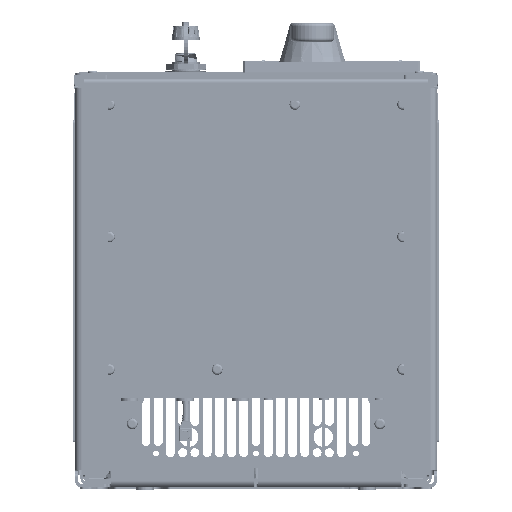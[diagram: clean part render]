
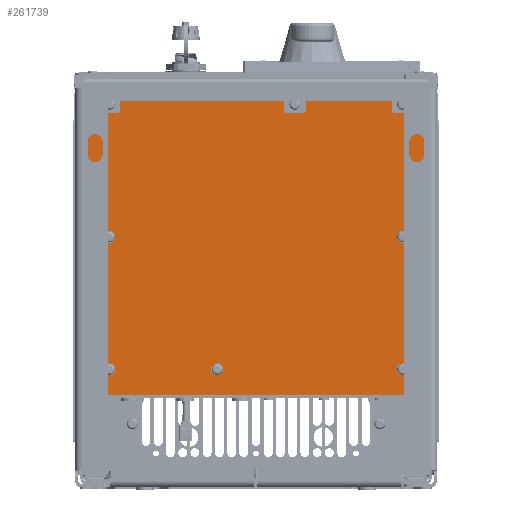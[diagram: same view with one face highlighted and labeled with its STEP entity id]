
A CAD part, front view. The second image highlights one B-rep face of the part: STEP entity #261739.
In plain terms, the highlighted planar face has unit normal (0, -1, 0) as drawn and (0, 0, 1) by its records, which use the part's own axes.
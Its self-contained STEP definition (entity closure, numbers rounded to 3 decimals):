
#261132=CARTESIAN_POINT('',(0.,132.,1.9));
#261133=DIRECTION('',(0.,0.,1.));
#261134=DIRECTION('',(0.,-1.,0.));
#261135=AXIS2_PLACEMENT_3D('',#261132,#261133,#261134);
#261140=CARTESIAN_POINT('',(0.,132.,1.9));
#261141=DIRECTION('',(0.,0.,1.));
#261142=DIRECTION('',(0.,1.,0.));
#261143=AXIS2_PLACEMENT_3D('',#261140,#261141,#261142);
#261148=CARTESIAN_POINT('',(119.3,132.,1.9));
#261149=DIRECTION('',(0.,0.,1.));
#261150=DIRECTION('',(0.,-1.,0.));
#261151=AXIS2_PLACEMENT_3D('',#261148,#261149,#261150);
#261156=CARTESIAN_POINT('',(119.3,132.,1.9));
#261157=DIRECTION('',(0.,0.,1.));
#261158=DIRECTION('',(0.,1.,0.));
#261159=AXIS2_PLACEMENT_3D('',#261156,#261157,#261158);
#261164=CARTESIAN_POINT('',(-119.3,132.,1.9));
#261165=DIRECTION('',(0.,0.,1.));
#261166=DIRECTION('',(0.,-1.,0.));
#261167=AXIS2_PLACEMENT_3D('',#261164,#261165,#261166);
#261172=CARTESIAN_POINT('',(-119.3,132.,1.9));
#261173=DIRECTION('',(0.,0.,1.));
#261174=DIRECTION('',(0.,1.,0.));
#261175=AXIS2_PLACEMENT_3D('',#261172,#261173,#261174);
#261180=CARTESIAN_POINT('',(0.,-132.,1.9));
#261181=DIRECTION('',(0.,0.,1.));
#261182=DIRECTION('',(0.,-1.,0.));
#261183=AXIS2_PLACEMENT_3D('',#261180,#261181,#261182);
#261188=CARTESIAN_POINT('',(0.,-132.,1.9));
#261189=DIRECTION('',(0.,0.,1.));
#261190=DIRECTION('',(0.,1.,0.));
#261191=AXIS2_PLACEMENT_3D('',#261188,#261189,#261190);
#261196=CARTESIAN_POINT('',(119.3,-35.,1.9));
#261197=DIRECTION('',(0.,0.,1.));
#261198=DIRECTION('',(0.,-1.,0.));
#261199=AXIS2_PLACEMENT_3D('',#261196,#261197,#261198);
#261204=CARTESIAN_POINT('',(119.3,-35.,1.9));
#261205=DIRECTION('',(0.,0.,1.));
#261206=DIRECTION('',(0.,1.,0.));
#261207=AXIS2_PLACEMENT_3D('',#261204,#261205,#261206);
#261212=CARTESIAN_POINT('',(119.3,-132.,1.9));
#261213=DIRECTION('',(0.,0.,1.));
#261214=DIRECTION('',(0.,-1.,0.));
#261215=AXIS2_PLACEMENT_3D('',#261212,#261213,#261214);
#261220=CARTESIAN_POINT('',(119.3,-132.,1.9));
#261221=DIRECTION('',(0.,0.,1.));
#261222=DIRECTION('',(0.,1.,0.));
#261223=AXIS2_PLACEMENT_3D('',#261220,#261221,#261222);
#261228=CARTESIAN_POINT('',(-119.3,35.,1.9));
#261229=DIRECTION('',(0.,0.,1.));
#261230=DIRECTION('',(0.,-1.,0.));
#261231=AXIS2_PLACEMENT_3D('',#261228,#261229,#261230);
#261236=CARTESIAN_POINT('',(-119.3,35.,1.9));
#261237=DIRECTION('',(0.,0.,1.));
#261238=DIRECTION('',(0.,1.,0.));
#261239=AXIS2_PLACEMENT_3D('',#261236,#261237,#261238);
#261244=CARTESIAN_POINT('',(-119.3,-132.,1.9));
#261245=DIRECTION('',(0.,0.,1.));
#261246=DIRECTION('',(0.,-1.,0.));
#261247=AXIS2_PLACEMENT_3D('',#261244,#261245,#261246);
#261252=CARTESIAN_POINT('',(-119.3,-132.,1.9));
#261253=DIRECTION('',(0.,0.,1.));
#261254=DIRECTION('',(0.,1.,0.));
#261255=AXIS2_PLACEMENT_3D('',#261252,#261253,#261254);
#261260=CARTESIAN_POINT('',(-137.,-146.,1.9));
#261261=DIRECTION('',(0.,0.,1.));
#261262=DIRECTION('',(-1.,0.,0.));
#261263=AXIS2_PLACEMENT_3D('',#261260,#261261,#261262);
#261268=DIRECTION('',(0.,-1.,0.));
#261269=VECTOR('',#261268,292.);
#261270=CARTESIAN_POINT('',(-142.,146.,1.9));
#261271=LINE('',#261270,#261269);
#261275=CARTESIAN_POINT('',(-137.,146.,1.9));
#261276=DIRECTION('',(0.,0.,1.));
#261277=DIRECTION('',(0.,1.,0.));
#261278=AXIS2_PLACEMENT_3D('',#261275,#261276,#261277);
#261283=DIRECTION('',(-1.,0.,0.));
#261284=VECTOR('',#261283,274.);
#261285=CARTESIAN_POINT('',(137.,151.,1.9));
#261286=LINE('',#261285,#261284);
#261290=CARTESIAN_POINT('',(137.,146.,1.9));
#261291=DIRECTION('',(0.,0.,1.));
#261292=DIRECTION('',(1.,0.,0.));
#261293=AXIS2_PLACEMENT_3D('',#261290,#261291,#261292);
#261298=DIRECTION('',(0.,1.,0.));
#261299=VECTOR('',#261298,292.);
#261300=CARTESIAN_POINT('',(142.,-146.,1.9));
#261301=LINE('',#261300,#261299);
#261305=CARTESIAN_POINT('',(137.,-146.,1.9));
#261306=DIRECTION('',(0.,0.,1.));
#261307=DIRECTION('',(0.,-1.,0.));
#261308=AXIS2_PLACEMENT_3D('',#261305,#261306,#261307);
#261313=DIRECTION('',(1.,0.,0.));
#261314=VECTOR('',#261313,274.);
#261315=CARTESIAN_POINT('',(-137.,-151.,1.9));
#261316=LINE('',#261315,#261314);
#261490=CARTESIAN_POINT('',(-119.3,-135.25,1.9));
#261491=CARTESIAN_POINT('',(-119.3,-128.75,1.9));
#261492=VERTEX_POINT('',#261490);
#261493=VERTEX_POINT('',#261491);
#261494=CARTESIAN_POINT('',(-119.3,31.75,1.9));
#261495=CARTESIAN_POINT('',(-119.3,38.25,1.9));
#261496=VERTEX_POINT('',#261494);
#261497=VERTEX_POINT('',#261495);
#261498=CARTESIAN_POINT('',(119.3,-135.25,1.9));
#261499=CARTESIAN_POINT('',(119.3,-128.75,1.9));
#261500=VERTEX_POINT('',#261498);
#261501=VERTEX_POINT('',#261499);
#261502=CARTESIAN_POINT('',(119.3,-38.25,1.9));
#261503=CARTESIAN_POINT('',(119.3,-31.75,1.9));
#261504=VERTEX_POINT('',#261502);
#261505=VERTEX_POINT('',#261503);
#261522=CARTESIAN_POINT('',(0.,-135.25,1.9));
#261523=CARTESIAN_POINT('',(0.,-128.75,1.9));
#261524=VERTEX_POINT('',#261522);
#261525=VERTEX_POINT('',#261523);
#261526=CARTESIAN_POINT('',(-119.3,128.75,1.9));
#261527=CARTESIAN_POINT('',(-119.3,135.25,1.9));
#261528=VERTEX_POINT('',#261526);
#261529=VERTEX_POINT('',#261527);
#261530=CARTESIAN_POINT('',(119.3,128.75,1.9));
#261531=CARTESIAN_POINT('',(119.3,135.25,1.9));
#261532=VERTEX_POINT('',#261530);
#261533=VERTEX_POINT('',#261531);
#261534=CARTESIAN_POINT('',(0.,128.75,1.9));
#261535=CARTESIAN_POINT('',(0.,135.25,1.9));
#261536=VERTEX_POINT('',#261534);
#261537=VERTEX_POINT('',#261535);
#261542=CARTESIAN_POINT('',(-142.,-146.,1.9));
#261543=VERTEX_POINT('',#261542);
#261544=CARTESIAN_POINT('',(-137.,-151.,1.9));
#261545=VERTEX_POINT('',#261544);
#261550=CARTESIAN_POINT('',(-137.,151.,1.9));
#261551=VERTEX_POINT('',#261550);
#261552=CARTESIAN_POINT('',(-142.,146.,1.9));
#261553=VERTEX_POINT('',#261552);
#261558=CARTESIAN_POINT('',(142.,146.,1.9));
#261559=VERTEX_POINT('',#261558);
#261560=CARTESIAN_POINT('',(137.,151.,1.9));
#261561=VERTEX_POINT('',#261560);
#261566=CARTESIAN_POINT('',(137.,-151.,1.9));
#261567=VERTEX_POINT('',#261566);
#261568=CARTESIAN_POINT('',(142.,-146.,1.9));
#261569=VERTEX_POINT('',#261568);
#261670=CARTESIAN_POINT('',(0.,0.,1.9));
#261671=DIRECTION('',(0.,0.,1.));
#261672=DIRECTION('',(0.,1.,0.));
#261673=AXIS2_PLACEMENT_3D('',#261670,#261671,#261672);
#261674=PLANE('',#261673);
#261676=ORIENTED_EDGE('',*,*,#261675,.F.);
#261678=ORIENTED_EDGE('',*,*,#261677,.F.);
#261680=ORIENTED_EDGE('',*,*,#261679,.F.);
#261682=ORIENTED_EDGE('',*,*,#261681,.F.);
#261684=ORIENTED_EDGE('',*,*,#261683,.F.);
#261686=ORIENTED_EDGE('',*,*,#261685,.F.);
#261688=ORIENTED_EDGE('',*,*,#261687,.F.);
#261690=ORIENTED_EDGE('',*,*,#261689,.F.);
#261691=EDGE_LOOP('',(#261676,#261678,#261680,#261682,#261684,#261686,#261688,
#261690));
#261692=FACE_OUTER_BOUND('',#261691,.F.);
#261694=ORIENTED_EDGE('',*,*,#261693,.T.);
#261696=ORIENTED_EDGE('',*,*,#261695,.T.);
#261697=EDGE_LOOP('',(#261694,#261696));
#261698=FACE_BOUND('',#261697,.F.);
#261700=ORIENTED_EDGE('',*,*,#261699,.T.);
#261702=ORIENTED_EDGE('',*,*,#261701,.T.);
#261703=EDGE_LOOP('',(#261700,#261702));
#261704=FACE_BOUND('',#261703,.F.);
#261706=ORIENTED_EDGE('',*,*,#261705,.T.);
#261708=ORIENTED_EDGE('',*,*,#261707,.T.);
#261709=EDGE_LOOP('',(#261706,#261708));
#261710=FACE_BOUND('',#261709,.F.);
#261712=ORIENTED_EDGE('',*,*,#261711,.T.);
#261714=ORIENTED_EDGE('',*,*,#261713,.T.);
#261715=EDGE_LOOP('',(#261712,#261714));
#261716=FACE_BOUND('',#261715,.F.);
#261718=ORIENTED_EDGE('',*,*,#261717,.T.);
#261720=ORIENTED_EDGE('',*,*,#261719,.T.);
#261721=EDGE_LOOP('',(#261718,#261720));
#261722=FACE_BOUND('',#261721,.F.);
#261724=ORIENTED_EDGE('',*,*,#261723,.T.);
#261726=ORIENTED_EDGE('',*,*,#261725,.T.);
#261727=EDGE_LOOP('',(#261724,#261726));
#261728=FACE_BOUND('',#261727,.F.);
#261729=ORIENTED_EDGE('',*,*,#261650,.T.);
#261730=ORIENTED_EDGE('',*,*,#261664,.T.);
#261731=EDGE_LOOP('',(#261729,#261730));
#261732=FACE_BOUND('',#261731,.F.);
#261734=ORIENTED_EDGE('',*,*,#261733,.T.);
#261736=ORIENTED_EDGE('',*,*,#261735,.T.);
#261737=EDGE_LOOP('',(#261734,#261736));
#261738=FACE_BOUND('',#261737,.F.);
#261739=ADVANCED_FACE('',(#261692,#261698,#261704,#261710,#261716,#261722,
#261728,#261732,#261738),#261674,.T.);
#261136=CIRCLE('',#261135,3.25);
#261144=CIRCLE('',#261143,3.25);
#261152=CIRCLE('',#261151,3.25);
#261160=CIRCLE('',#261159,3.25);
#261168=CIRCLE('',#261167,3.25);
#261176=CIRCLE('',#261175,3.25);
#261184=CIRCLE('',#261183,3.25);
#261192=CIRCLE('',#261191,3.25);
#261200=CIRCLE('',#261199,3.25);
#261208=CIRCLE('',#261207,3.25);
#261216=CIRCLE('',#261215,3.25);
#261224=CIRCLE('',#261223,3.25);
#261232=CIRCLE('',#261231,3.25);
#261240=CIRCLE('',#261239,3.25);
#261248=CIRCLE('',#261247,3.25);
#261256=CIRCLE('',#261255,3.25);
#261264=CIRCLE('',#261263,5.);
#261279=CIRCLE('',#261278,5.);
#261294=CIRCLE('',#261293,5.);
#261309=CIRCLE('',#261308,5.);
#261650=EDGE_CURVE('',#261492,#261493,#261248,.T.);
#261664=EDGE_CURVE('',#261493,#261492,#261256,.T.);
#261675=EDGE_CURVE('',#261543,#261545,#261264,.T.);
#261677=EDGE_CURVE('',#261553,#261543,#261271,.T.);
#261679=EDGE_CURVE('',#261551,#261553,#261279,.T.);
#261681=EDGE_CURVE('',#261561,#261551,#261286,.T.);
#261683=EDGE_CURVE('',#261559,#261561,#261294,.T.);
#261685=EDGE_CURVE('',#261569,#261559,#261301,.T.);
#261687=EDGE_CURVE('',#261567,#261569,#261309,.T.);
#261689=EDGE_CURVE('',#261545,#261567,#261316,.T.);
#261693=EDGE_CURVE('',#261532,#261533,#261152,.T.);
#261695=EDGE_CURVE('',#261533,#261532,#261160,.T.);
#261699=EDGE_CURVE('',#261528,#261529,#261168,.T.);
#261701=EDGE_CURVE('',#261529,#261528,#261176,.T.);
#261705=EDGE_CURVE('',#261524,#261525,#261184,.T.);
#261707=EDGE_CURVE('',#261525,#261524,#261192,.T.);
#261711=EDGE_CURVE('',#261504,#261505,#261200,.T.);
#261713=EDGE_CURVE('',#261505,#261504,#261208,.T.);
#261717=EDGE_CURVE('',#261500,#261501,#261216,.T.);
#261719=EDGE_CURVE('',#261501,#261500,#261224,.T.);
#261723=EDGE_CURVE('',#261496,#261497,#261232,.T.);
#261725=EDGE_CURVE('',#261497,#261496,#261240,.T.);
#261733=EDGE_CURVE('',#261536,#261537,#261136,.T.);
#261735=EDGE_CURVE('',#261537,#261536,#261144,.T.);
